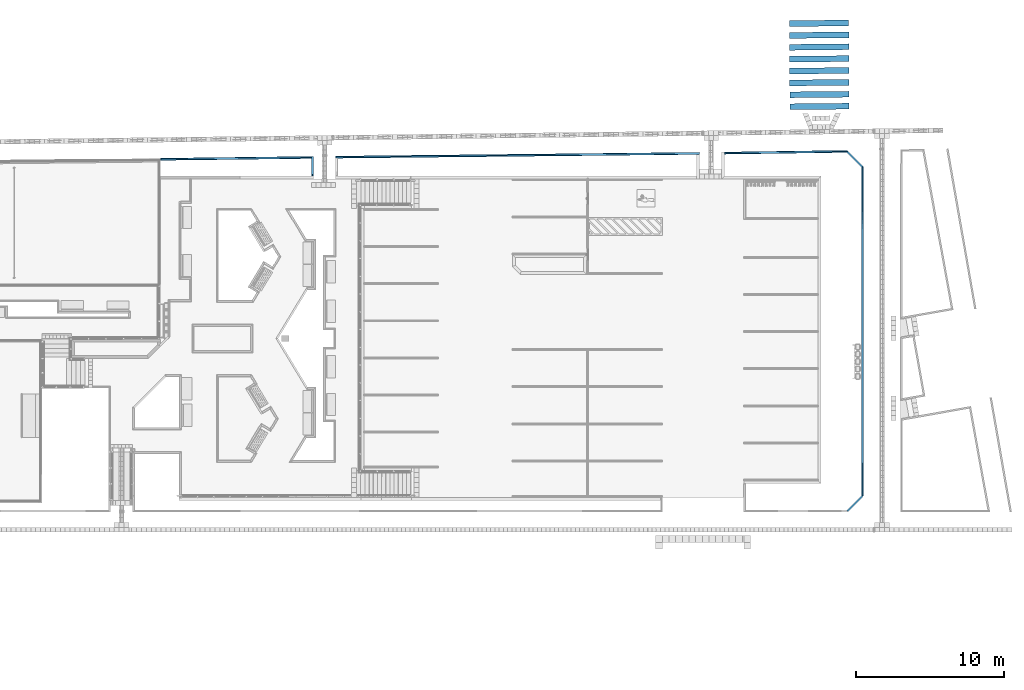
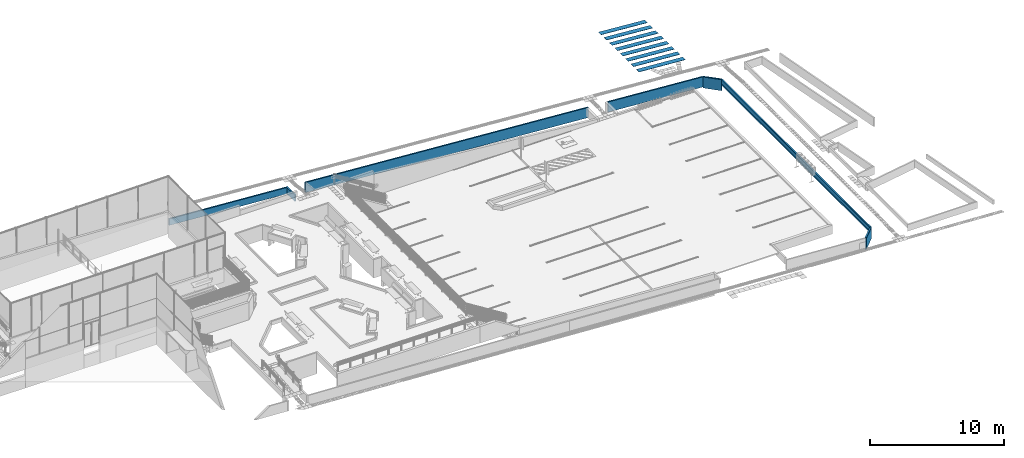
# One storey, part 12 of 237: 18 beams.
"""IFC2X3 building model written with IfcOpenShell, lengths in millimetres."""

from ifc_helpers import new_model, entity, si_unit, converted_unit, derived_unit, money_unit, direction, frame, frame_2d, origin_with_axes, place, context, subcontext, project, spatial, rectangle, extrude, clip, halfspace, material, type_object, element, save


model = new_model("IFC2X3")

# Units and contexts
model_context = context("Model", 3, precision=0.01, world=origin_with_axes(), true_north=direction((0.0, 1.0)))
body_context = subcontext(model_context, "Body", "Model", "MODEL_VIEW")
ifc_project = project(units=[si_unit("LENGTHUNIT", "METRE", prefix="MILLI"), si_unit("AREAUNIT", "SQUARE_METRE"), si_unit("VOLUMEUNIT", "CUBIC_METRE"), converted_unit("PLANEANGLEUNIT", "DEGREE", entity("IfcPlaneAngleMeasure", 0.0174532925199), si_unit("PLANEANGLEUNIT", "RADIAN"), dimensions=[0, 0, 0, 0, 0, 0, 0]), money_unit("USD"), converted_unit("TIMEUNIT", "Year", entity("IfcTimeMeasure", 31556926.0), si_unit("TIMEUNIT", "SECOND"), dimensions=[0, 0, 1, 0, 0, 0, 0]), si_unit("MASSUNIT", "GRAM", prefix="KILO"), si_unit("THERMODYNAMICTEMPERATUREUNIT", "DEGREE_CELSIUS"), si_unit("LUMINOUSINTENSITYUNIT", "LUMEN"), si_unit("ENERGYUNIT", "JOULE", prefix="MEGA"), derived_unit("THERMALCONDUCTANCEUNIT", [(si_unit("POWERUNIT", "WATT"), 1), (si_unit("LENGTHUNIT", "METRE"), -1), (si_unit("THERMODYNAMICTEMPERATUREUNIT", "KELVIN"), -1)]), derived_unit("SPECIFICHEATCAPACITYUNIT", [(si_unit("ENERGYUNIT", "JOULE"), 1), (si_unit("MASSUNIT", "GRAM", prefix="KILO"), -1), (si_unit("THERMODYNAMICTEMPERATUREUNIT", "KELVIN"), -1)]), derived_unit("MASSDENSITYUNIT", [(si_unit("MASSUNIT", "GRAM", prefix="KILO"), 1), (si_unit("VOLUMEUNIT", "CUBIC_METRE"), -1)])], contexts=[model_context])

# Site, building, storey
site_placement = place(None, origin_with_axes())
site = spatial("IfcSite", under=ifc_project, at=site_placement, Name="Local", CompositionType="ELEMENT")
building_placement = place(site_placement, origin_with_axes())
building = spatial("IfcBuilding", under=site, at=building_placement, Name="Construção", CompositionType="ELEMENT")
storey_placement = place(building_placement, origin_with_axes())
storey = spatial("IfcBuildingStorey", under=building, at=storey_placement, Name="Pavimento Térreo", CompositionType="ELEMENT", Elevation=0.0)

# Beams
ifc_material = material(Name="GENÉRICO - ESTRUTURAL")
beam_type_1 = type_object("IfcBeamType", Name="GENÉRICO - ESTRUTURAL 120 x 919", PredefinedType="NOTDEFINED")
beam_1_placement = place(storey_placement, frame((124762.938661, 36194.0748004, -7130.91984353), z_axis=(0.0, 0.0, 1.0), x_axis=(0.0141202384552, -0.999900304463, 0.0)))
element("IfcBeam", 1, at=beam_1_placement, inside=storey, type_object=beam_type_1, material=ifc_material, Name="Viga-031", context=body_context, shape_type="Clipping", body=[
    clip(clip(extrude(rectangle(XDim=919.288027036, YDim=120.0, at=frame_2d((-459.644013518, 0.0), x_axis=(1.0, 0.0))), frame((0.0, -104.401053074, 8.41100755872), z_axis=(0.0, 0.996770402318, -0.0803042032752), x_axis=(0.0, 0.0803042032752, 0.996770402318)), (0.0, 0.0, 1.0), 8490.6554619), halfspace(frame((0.0, 0.0, 0.0), z_axis=(0.0, 1.0, 0.0), x_axis=(0.0, 0.0, 1.0)), True)), halfspace(frame((0.0, 8254.43195455, 0.0), z_axis=(0.0, -1.0, 0.0), x_axis=(0.0, 0.0, -1.0)), True)),
])
beam_2_placement = place(storey_placement, frame((98563.4511651, 35920.8525515, -5118.42901794), z_axis=(0.0, 0.0, 1.0), x_axis=(0.0104398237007, -0.999945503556, 0.0)))
element("IfcBeam", 2, at=beam_2_placement, inside=storey, type_object=beam_type_1, material=ifc_material, Name="Viga-031", context=body_context, shape_type="Clipping", body=[
    clip(clip(extrude(rectangle(XDim=919.288027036, YDim=120.0, at=frame_2d((-459.644013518, 0.0), x_axis=(1.0, 0.0))), frame((0.0, -100.245869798, 7.75284874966), z_axis=(0.0, 0.997022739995, -0.0771080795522), x_axis=(0.0, 0.0771080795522, 0.997022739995)), (0.0, 0.0, 1.0), 24773.2132483), halfspace(frame((0.0, 0.0, 0.0), z_axis=(0.0, 1.0, 0.0), x_axis=(0.0, 0.0, 1.0)), True)), halfspace(frame((0.0, 24498.9652117, 0.0), z_axis=(0.0, -1.0, 0.0), x_axis=(0.0, 0.0, -1.0)), True)),
])
beam_type_2 = type_object("IfcBeamType", Name="GENÉRICO - ESTRUTURAL 120 x 340", PredefinedType="NOTDEFINED")
beam_3_placement = place(storey_placement, frame((134049.461497, 13096.6680646, -7800.0), z_axis=(0.0, 0.0, 1.0), x_axis=(0.999999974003, -0.000228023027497, 0.0)))
element("IfcBeam", 3, at=beam_3_placement, inside=storey, type_object=beam_type_2, material=ifc_material, Name="Viga-032", context=body_context, shape_type="SweptSolid", body=[
    extrude(rectangle(XDim=340.166452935, YDim=120.0, at=frame_2d((-170.083226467, 0.0), x_axis=(1.0, 0.0))), frame((0.0, 0.0, 0.0), z_axis=(0.0, 1.0, 0.0), x_axis=(0.0, 0.0, 1.0)), (0.0, 0.0, 1.0), 22175.8131898),
])
beam_type_3 = type_object("IfcBeamType", Name="GENÉRICO - ESTRUTURAL 120 x 725", PredefinedType="NOTDEFINED")
beam_4_placement = place(storey_placement, frame((133038.191605, 12082.6246226, -7777.75395214), z_axis=(0.0, 0.0, 1.0), x_axis=(0.708074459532, -0.706137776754, 0.0)))
element("IfcBeam", 4, at=beam_4_placement, inside=storey, type_object=beam_type_3, material=ifc_material, Name="Viga-032", context=body_context, shape_type="SweptSolid", body=[
    extrude(rectangle(XDim=724.82500015, YDim=120.0, at=frame_2d((-362.412500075, 0.0), x_axis=(1.0, 0.0))), frame((0.0, 0.0, 0.0), z_axis=(0.0, 1.0, 0.0), x_axis=(0.0, 0.0, 1.0)), (0.0, 0.0, 1.0), 1432.11413483),
])
beam_type_4 = type_object("IfcBeamType", Name="GENÉRICO - ESTRUTURAL 120 x 585", PredefinedType="NOTDEFINED")
beam_5_placement = place(storey_placement, frame((86762.8908804, 35778.9265995, -4214.84919914), z_axis=(0.0, 0.0, 1.0), x_axis=(0.0120226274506, -0.999927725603, 0.0)))
element("IfcBeam", 5, at=beam_5_placement, inside=storey, type_object=beam_type_4, material=ifc_material, Name="Viga-031", context=body_context, shape_type="Clipping", body=[
    clip(clip(extrude(rectangle(XDim=584.59470722, YDim=120.0, at=frame_2d((-292.29735361, 0.0), x_axis=(1.0, 0.0))), frame((0.0, -62.7651317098, 4.77883672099), z_axis=(0.0, 0.997114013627, -0.0759186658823), x_axis=(0.0, 0.0759186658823, 0.997114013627)), (0.0, 0.0, 1.0), 10336.2731245), halfspace(frame((0.0, 0.0, 0.0), z_axis=(0.0, 1.0, 0.0), x_axis=(0.0, 0.0, 1.0)), True)), halfspace(frame((0.0, 10180.9125176, 0.0), z_axis=(0.0, -1.0, 0.0), x_axis=(0.0, 0.0, -1.0)), True)),
])
beam_6_placement = place(storey_placement, frame((97003.0634835, 35961.9054591, -4984.55151775), z_axis=(0.0, 0.0, 1.0), x_axis=(-0.999999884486, -0.000480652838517, 0.0)))
element("IfcBeam", 6, at=beam_6_placement, inside=storey, type_object=beam_type_4, material=ifc_material, Name="Viga-031", context=body_context, shape_type="Clipping", body=[
    clip(clip(extrude(rectangle(XDim=584.594768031, YDim=120.0, at=frame_2d((-292.297384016, 0.0), x_axis=(1.0, 0.0))), frame((0.0, -20.0459462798, -0.486195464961), z_axis=(0.0, 0.999706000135, 0.0242469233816), x_axis=(0.0, -0.0242469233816, 0.999706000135)), (0.0, 0.0, 1.0), 1348.73527343), halfspace(frame((0.0, 0.0, 0.0), z_axis=(0.0, 1.0, 0.0), x_axis=(0.0, 0.0, 1.0)), True)), halfspace(frame((0.0, 1308.24685289, 0.0), z_axis=(0.0, -1.0, 0.0), x_axis=(0.0, 0.0, -1.0)), True)),
])
beam_type_5 = type_object("IfcBeamType", Name="GENÉRICO - ESTRUTURAL 120 x 1000", PredefinedType="NOTDEFINED")
beam_7_placement = place(storey_placement, frame((134054.518093, 35272.4806778, -7800.0), z_axis=(0.0, 0.0, 1.0), x_axis=(0.707167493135, 0.707046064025, 0.0)))
element("IfcBeam", 7, at=beam_7_placement, inside=storey, type_object=beam_type_5, material=ifc_material, Name="Viga-032", context=body_context, shape_type="SweptSolid", body=[
    extrude(rectangle(XDim=999.791711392, YDim=120.0, at=frame_2d((-499.895855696, 0.0), x_axis=(1.0, 0.0))), frame((0.0, 0.0, 0.0), z_axis=(0.0, 1.0, 0.0), x_axis=(0.0, 0.0, 1.0)), (0.0, 0.0, 1.0), 1437.2582011),
])
beam_8_placement = place(storey_placement, frame((133038.191605, 12082.6246226, -7850.0), z_axis=(0.0, 0.0, 1.0), x_axis=(0.708074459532, -0.706137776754, 0.0)))
element("IfcBeam", 8, at=beam_8_placement, inside=storey, type_object=beam_type_5, material=ifc_material, Name="Viga-032", context=body_context, shape_type="SweptSolid", body=[
    extrude(rectangle(XDim=999.791711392, YDim=120.0, at=frame_2d((-499.895855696, 0.0), x_axis=(1.0, 0.0))), frame((0.0, 0.0, 0.0), z_axis=(0.0, 1.0, 0.0), x_axis=(0.0, 0.0, 1.0)), (0.0, 0.0, 1.0), 1432.11413483),
])
beam_type_6 = type_object("IfcBeamType", Name="GENÉRICO - ESTRUTURAL 400 x 20", PredefinedType="NOTDEFINED")
beam_9_placement = place(storey_placement, frame((133147.113858, 40963.2003503, -8055.62556705), z_axis=(0.0, 0.0, 1.0), x_axis=(-0.0104361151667, 0.999945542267, 0.0)))
element("IfcBeam", 9, at=beam_9_placement, inside=storey, type_object=beam_type_6, material=ifc_material, Name="Viga-031", context=body_context, shape_type="Clipping", body=[
    clip(clip(extrude(rectangle(XDim=20.0, YDim=400.0, at=frame_2d((-10.0, 0.0), x_axis=(1.0, 0.0))), frame((0.0, -2.2315468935, -0.176613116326), z_axis=(0.0, 0.996882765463, 0.0788970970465), x_axis=(0.0, -0.0788970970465, 0.996882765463)), (0.0, 0.0, 1.0), 4016.98497809), halfspace(frame((0.0, 0.0, 0.0), z_axis=(0.0, 1.0, 0.0), x_axis=(0.0, 0.0, 1.0)), True)), halfspace(frame((0.0, 4000.0, 0.0), z_axis=(0.0, -1.0, 0.0), x_axis=(0.0, 0.0, -1.0)), True)),
])
beam_10_placement = place(storey_placement, frame((133155.46275, 39359.3151645, -8045.99486072), z_axis=(0.0, 0.0, 1.0), x_axis=(-0.0104361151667, 0.999945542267, 0.0)))
element("IfcBeam", 10, at=beam_10_placement, inside=storey, type_object=beam_type_6, material=ifc_material, Name="Viga-031", context=body_context, shape_type="Clipping", body=[
    clip(clip(extrude(rectangle(XDim=20.0, YDim=400.0, at=frame_2d((-10.0, 0.0), x_axis=(1.0, 0.0))), frame((0.0, -2.16406340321, -0.166061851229), z_axis=(0.0, 0.997068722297, 0.0765111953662), x_axis=(0.0, -0.0765111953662, 0.997068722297)), (0.0, 0.0, 1.0), 4016.10043246), halfspace(frame((0.0, 0.0, 0.0), z_axis=(0.0, 1.0, 0.0), x_axis=(0.0, 0.0, 1.0)), True)), halfspace(frame((0.0, 4000.0, 0.0), z_axis=(0.0, -1.0, 0.0), x_axis=(0.0, 0.0, -1.0)), True)),
])
beam_11_placement = place(storey_placement, frame((133155.46275, 40163.2439165, -8049.60274243), z_axis=(0.0, 0.0, 1.0), x_axis=(-0.0104361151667, 0.999945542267, 0.0)))
element("IfcBeam", 11, at=beam_11_placement, inside=storey, type_object=beam_type_6, material=ifc_material, Name="Viga-031", context=body_context, shape_type="Clipping", body=[
    clip(clip(extrude(rectangle(XDim=20.0, YDim=400.0, at=frame_2d((-10.0, 0.0), x_axis=(1.0, 0.0))), frame((0.0, -2.18934867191, -0.16997687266), z_axis=(0.0, 0.996999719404, 0.0774051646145), x_axis=(0.0, -0.0774051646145, 0.996999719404)), (0.0, 0.0, 1.0), 4016.42911167), halfspace(frame((0.0, 0.0, 0.0), z_axis=(0.0, 1.0, 0.0), x_axis=(0.0, 0.0, 1.0)), True)), halfspace(frame((0.0, 4000.0, 0.0), z_axis=(0.0, -1.0, 0.0), x_axis=(0.0, 0.0, -1.0)), True)),
])
beam_12_placement = place(storey_placement, frame((133147.113858, 42563.2003503, -8063.61806018), z_axis=(0.0, 0.0, 1.0), x_axis=(-0.0104361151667, 0.999945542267, 0.0)))
element("IfcBeam", 12, at=beam_12_placement, inside=storey, type_object=beam_type_6, material=ifc_material, Name="Viga-031", context=body_context, shape_type="Clipping", body=[
    clip(clip(extrude(rectangle(XDim=20.0, YDim=400.0, at=frame_2d((-10.0, 0.0), x_axis=(1.0, 0.0))), frame((0.0, -2.28752217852, -0.185613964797), z_axis=(0.0, 0.996724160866, 0.0808761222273), x_axis=(0.0, -0.0808761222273, 0.996724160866)), (0.0, 0.0, 1.0), 4017.73650282), halfspace(frame((0.0, 0.0, 0.0), z_axis=(0.0, 1.0, 0.0), x_axis=(0.0, 0.0, 1.0)), True)), halfspace(frame((0.0, 4000.0, 0.0), z_axis=(0.0, -1.0, 0.0), x_axis=(0.0, 0.0, -1.0)), True)),
])
for number, where, z_axis, x_axis, name in (
    (13, (133138.766418, 43363.1567993, -8066.10257797), (0.0, 0.0, 1.0), (-0.0104361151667, 0.999945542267, 0.0), "Viga-031"),
    (14, (133130.417568, 44163.1132335, -8066.10257797), (0.0, 0.0, 1.0), (-0.0104361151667, 0.999945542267, 0.0), "Viga-031"),
    (15, (133120.446171, 44963.0529978, -8066.10257797), (0.0, 0.0, 1.0), (-0.0104361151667, 0.999945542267, 0.0), "Viga-031"),
):
    element("IfcBeam", number, at=place(storey_placement, frame(where, z_axis=z_axis, x_axis=x_axis)), inside=storey, type_object=beam_type_6, material=ifc_material, Name=name, context=body_context, shape_type="Clipping", body=[
        clip(clip(extrude(rectangle(XDim=20.0, YDim=400.0, at=frame_2d((-10.0, 0.0), x_axis=(1.0, 0.0))), frame((0.0, -2.30491697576, -0.188457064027), z_axis=(0.0, 0.996674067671, 0.0814911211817), x_axis=(0.0, -0.0814911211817, 0.996674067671)), (0.0, 0.0, 1.0), 4017.97334138), halfspace(frame((0.0, 0.0, 0.0), z_axis=(0.0, 1.0, 0.0), x_axis=(0.0, 0.0, 1.0)), True)), halfspace(frame((0.0, 4000.0, 0.0), z_axis=(0.0, -1.0, 0.0), x_axis=(0.0, 0.0, -1.0)), True)),
    ])
beam_13_placement = place(storey_placement, frame((133147.113858, 41763.2003503, -8056.27920273), z_axis=(0.0, 0.0, 1.0), x_axis=(-0.0104361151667, 0.999945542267, 0.0)))
element("IfcBeam", 16, at=beam_13_placement, inside=storey, type_object=beam_type_6, material=ifc_material, Name="Viga-031", context=body_context, shape_type="Clipping", body=[
    clip(clip(extrude(rectangle(XDim=20.0, YDim=400.0, at=frame_2d((-10.0, 0.0), x_axis=(1.0, 0.0))), frame((0.0, -2.24236413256, -0.178334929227), z_axis=(0.0, 0.996852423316, 0.079279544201), x_axis=(0.0, -0.079279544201, 0.996852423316)), (0.0, 0.0, 1.0), 4017.12894968), halfspace(frame((0.0, 0.0, 0.0), z_axis=(0.0, 1.0, 0.0), x_axis=(0.0, 0.0, 1.0)), True)), halfspace(frame((0.0, 4000.0, 0.0), z_axis=(0.0, -1.0, 0.0), x_axis=(0.0, 0.0, -1.0)), True)),
])
beam_type_7 = type_object("IfcBeamType", Name="GENÉRICO - ESTRUTURAL 120 x 500", PredefinedType="NOTDEFINED")
beam_14_placement = place(storey_placement, frame((134049.461497, 13096.6680646, -7777.75395214), z_axis=(0.0, 0.0, 1.0), x_axis=(0.999999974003, -0.000228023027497, 0.0)))
element("IfcBeam", 17, at=beam_14_placement, inside=storey, type_object=beam_type_7, material=ifc_material, Name="Viga-032", context=body_context, shape_type="Clipping", body=[
    clip(clip(extrude(rectangle(XDim=499.897357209, YDim=120.0, at=frame_2d((-249.948678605, 0.0), x_axis=(1.0, 0.0))), frame((0.0, -0.0420686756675, 2.50335155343e-06), z_axis=(0.0, 0.999999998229, -5.9506307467e-05), x_axis=(0.0, 5.9506307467e-05, 0.999999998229)), (0.0, 0.0, 1.0), 22175.8973664), halfspace(frame((0.0, 0.0, 0.0), z_axis=(0.0, 1.0, 0.0), x_axis=(0.0, 0.0, 1.0)), True)), halfspace(frame((0.0, 22175.8131898, 0.0), z_axis=(0.0, -1.0, 0.0), x_axis=(0.0, 0.0, -1.0)), True)),
])
beam_15_placement = place(storey_placement, frame((134054.518093, 35272.4806778, -7767.86339624), z_axis=(0.0, 0.0, 1.0), x_axis=(0.707167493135, 0.707046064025, 0.0)))
element("IfcBeam", 18, at=beam_15_placement, inside=storey, type_object=beam_type_7, material=ifc_material, Name="Viga-032", context=body_context, shape_type="Clipping", body=[
    clip(clip(extrude(rectangle(XDim=499.897357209, YDim=120.0, at=frame_2d((-249.948678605, 0.0), x_axis=(1.0, 0.0))), frame((0.0, -12.2173466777, 0.211165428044), z_axis=(0.0, 0.999850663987, -0.0172814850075), x_axis=(0.0, 0.0172814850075, 0.999850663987)), (0.0, 0.0, 1.0), 1492.69549031), halfspace(frame((0.0, 0.0, 0.0), z_axis=(0.0, 1.0, 0.0), x_axis=(0.0, 0.0, 1.0)), True)), halfspace(frame((0.0, 1468.03788377, 0.0), z_axis=(0.0, -1.0, 0.0), x_axis=(0.0, 0.0, -1.0)), True)),
])

save(model, "model.ifc")
